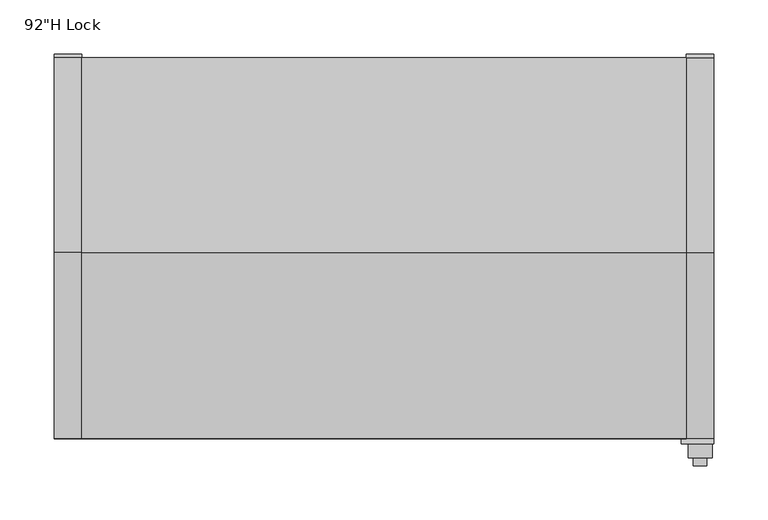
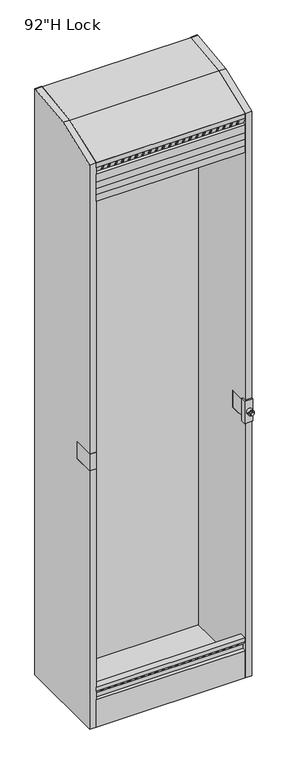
"""IFC4 building model written with IfcOpenShell, lengths in millimetres: furniture geometry."""

from ifc_helpers import new_model, si_unit, point, frame, frame_2d, origin, origin_with_axes, place, context, project, spatial, polyline, circle_curve, trimmed, segment, composite_curve, outline, extrude, faceted_brep, source, transform, mapped, element, save


def furniture_0b1650b5(model_context):
    return source(origin(), model_context, "Body", "SolidModel", [
        extrude(outline(polyline([(298.1376928, -25.4), (298.1376928, -50.8), (-260.6622951, -50.8), (-260.6622951, -25.4), (298.1376928, -25.4)])), frame((0.0, 0.0, 25.4), z_axis=(0.0, 0.0, 1.0), x_axis=(1.0, 0.0, 0.0)), (0.0, 0.0, 1.0), 2082.8),
        extrude(outline(polyline([(-183.6811645, 2305.1621655), (-3.1496374, 2327.275), (-3.1496374, 2324.0762712), (-182.9077346, 2302.058172), (-352.425, 2236.9865905), (-355.6000156, 2239.1687016), (-183.6811645, 2305.1621655)])), frame((-260.6622951, 0.0, 0.0), z_axis=(1.0, 0.0, 0.0), x_axis=(0.0, 1.0, 0.0)), (0.0, 0.0, 1.0), 558.8),
        extrude(outline(polyline([(-286.0622951, -355.6), (-286.0622951, -274.6375061), (-260.6622951, -274.6375061), (-260.6622951, -355.6), (-286.0622951, -355.6)])), frame((0.0, 0.0, 1025.5249758), z_axis=(0.0, 0.0, 1.0), x_axis=(1.0, 0.0, 0.0)), (0.0, 0.0, 1.0), 65.8812984),
        faceted_brep([(-260.6622951, -355.6, 2239.1686908), (-260.6622951, -352.425, 2236.9865905), (-260.6622951, -352.425, 2220.7977875), (-260.6622951, -340.8042724, 2194.8747503), (-260.6622951, -352.425, 2192.1930455), (-260.6622951, -352.425, 2162.9687016), (-260.6622951, -352.425, 2137.5687984), (-260.6622951, -352.425, 2112.16875), (-260.6622951, -352.425, 2086.7687016), (-260.6622951, -355.6, 2086.7687016), (-260.6622951, -355.6, 2112.16875), (-260.6622951, -355.6, 2137.5687984), (-260.6622951, -355.6, 2162.9687016), (-260.6622951, -355.6, 2194.7187984), (-260.6622951, -345.2812439, 2197.1000484), (-260.6622951, -355.6, 2220.1187016), (298.1377049, -355.6, 2239.1686908), (298.1377049, -355.6, 2220.1187016), (298.1377049, -345.2812439, 2197.1000484), (298.1377049, -355.6, 2194.7187984), (298.1377049, -355.6, 2162.9687016), (298.1377049, -355.6, 2137.5687984), (298.1377049, -355.6, 2112.16875), (298.1377049, -355.6, 2086.7687016), (298.1377049, -352.425, 2086.7687016), (298.1377049, -352.425, 2112.16875), (298.1377049, -352.425, 2137.5687984), (298.1377049, -352.425, 2162.9687016), (298.1377049, -352.425, 2192.1930455), (298.1377049, -340.8042724, 2194.8747503), (298.1377049, -352.425, 2220.7977875), (298.1377049, -352.425, 2236.9865905), (-238.4373192, -344.5601715, 2203.2532541), (-232.0873207, -344.5601715, 2203.2532541), (-232.0873207, -350.9557807, 2217.5203139), (-238.4373192, -350.9557807, 2217.5203139), (-213.0373207, -344.5601715, 2203.2532541), (-206.6873222, -344.5601715, 2203.2532541), (-206.6873222, -350.9557807, 2217.5203139), (-213.0373207, -350.9557807, 2217.5203139), (-187.6373222, -344.5601715, 2203.2532541), (-181.2873192, -344.5601715, 2203.2532541), (-181.2873192, -350.9557807, 2217.5203139), (-187.6373222, -350.9557807, 2217.5203139), (-162.2373192, -344.5601715, 2203.2532541), (-155.8873161, -344.5601715, 2203.2532541), (-155.8873161, -350.9557807, 2217.5203139), (-162.2373192, -350.9557807, 2217.5203139), (-136.8373161, -344.5601715, 2203.2532541), (-130.4873131, -344.5601715, 2203.2532541), (-130.4873131, -350.9557807, 2217.5203139), (-136.8373161, -350.9557807, 2217.5203139), (-111.4373131, -344.5601715, 2203.2532541), (-105.0873192, -344.5601715, 2203.2532541), (-105.0873192, -350.9557807, 2217.5203139), (-111.4373131, -350.9557807, 2217.5203139), (-86.0373192, -344.5601715, 2203.2532541), (-79.6873252, -344.5601715, 2203.2532541), (-79.6873252, -350.9557807, 2217.5203139), (-86.0373192, -350.9557807, 2217.5203139), (-60.6373252, -344.5601715, 2203.2532541), (-54.2873131, -344.5601715, 2203.2532541), (-54.2873131, -350.9557807, 2217.5203139), (-60.6373252, -350.9557807, 2217.5203139), (-35.2373131, -344.5601715, 2203.2532541), (-28.8873192, -344.5601715, 2203.2532541), (-28.8873192, -350.9557807, 2217.5203139), (-35.2373131, -350.9557807, 2217.5203139), (-9.8373192, -344.5601715, 2203.2532541), (-3.4873252, -344.5601715, 2203.2532541), (-3.4873252, -350.9557807, 2217.5203139), (-9.8373192, -350.9557807, 2217.5203139), (15.5626748, -344.5601715, 2203.2532541), (21.9126687, -344.5601715, 2203.2532541), (21.9126687, -350.9557807, 2217.5203139), (15.5626748, -350.9557807, 2217.5203139), (40.9626687, -344.5601715, 2203.2532541), (47.3126808, -344.5601715, 2203.2532541), (47.3126808, -350.9557807, 2217.5203139), (40.9626687, -350.9557807, 2217.5203139), (66.3626808, -344.5601715, 2203.2532541), (72.712693, -344.5601715, 2203.2532541), (72.712693, -350.9557807, 2217.5203139), (66.3626808, -350.9557807, 2217.5203139), (91.762693, -344.5601715, 2203.2532541), (98.1126687, -344.5601715, 2203.2532541), (98.1126687, -350.9557807, 2217.5203139), (91.762693, -350.9557807, 2217.5203139), (117.1626687, -344.5601715, 2203.2532541), (123.5126808, -344.5601715, 2203.2532541), (123.5126808, -350.9557807, 2217.5203139), (117.1626687, -350.9557807, 2217.5203139), (142.5626808, -344.5601715, 2203.2532541), (148.912693, -344.5601715, 2203.2532541), (148.912693, -350.9557807, 2217.5203139), (142.5626808, -350.9557807, 2217.5203139), (167.962693, -344.5601715, 2203.2532541), (174.3126687, -344.5601715, 2203.2532541), (174.3126687, -350.9557807, 2217.5203139), (167.962693, -350.9557807, 2217.5203139), (193.3626687, -344.5601715, 2203.2532541), (199.7126808, -344.5601715, 2203.2532541), (199.7126808, -350.9557807, 2217.5203139), (193.3626687, -350.9557807, 2217.5203139), (218.7626808, -344.5601715, 2203.2532541), (225.112693, -344.5601715, 2203.2532541), (225.112693, -350.9557807, 2217.5203139), (218.7626808, -350.9557807, 2217.5203139), (244.162693, -344.5601715, 2203.2532541), (250.5126687, -344.5601715, 2203.2532541), (250.5126687, -350.9557807, 2217.5203139), (244.162693, -350.9557807, 2217.5203139), (269.5626687, -344.5601715, 2203.2532541), (275.9126808, -344.5601715, 2203.2532541), (275.9126808, -350.9557807, 2217.5203139), (269.5626687, -350.9557807, 2217.5203139), (-232.0873207, -347.4573862, 2201.9544964), (-238.4373192, -347.4573862, 2201.9544964), (-238.4373192, -353.8529955, 2216.2215563), (-232.0873207, -353.8529955, 2216.2215563), (-206.6873222, -347.4573862, 2201.9544964), (-213.0373207, -347.4573862, 2201.9544964), (-213.0373207, -353.8529955, 2216.2215563), (-206.6873222, -353.8529955, 2216.2215563), (-181.2873192, -347.4573862, 2201.9544964), (-187.6373222, -347.4573862, 2201.9544964), (-187.6373222, -353.8529955, 2216.2215563), (-181.2873192, -353.8529955, 2216.2215563), (-155.8873161, -347.4573862, 2201.9544964), (-162.2373192, -347.4573862, 2201.9544964), (-162.2373192, -353.8529955, 2216.2215563), (-155.8873161, -353.8529955, 2216.2215563), (-130.4873131, -347.4573862, 2201.9544964), (-136.8373161, -347.4573862, 2201.9544964), (-136.8373161, -353.8529955, 2216.2215563), (-130.4873131, -353.8529955, 2216.2215563), (-105.0873192, -347.4573862, 2201.9544964), (-111.4373131, -347.4573862, 2201.9544964), (-111.4373131, -353.8529955, 2216.2215563), (-105.0873192, -353.8529955, 2216.2215563), (-79.6873252, -347.4573862, 2201.9544964), (-86.0373192, -347.4573862, 2201.9544964), (-86.0373192, -353.8529955, 2216.2215563), (-79.6873252, -353.8529955, 2216.2215563), (-54.2873131, -347.4573862, 2201.9544964), (-60.6373252, -347.4573862, 2201.9544964), (-60.6373252, -353.8529955, 2216.2215563), (-54.2873131, -353.8529955, 2216.2215563), (-28.8873192, -347.4573862, 2201.9544964), (-35.2373131, -347.4573862, 2201.9544964), (-35.2373131, -353.8529955, 2216.2215563), (-28.8873192, -353.8529955, 2216.2215563), (-3.4873252, -347.4573862, 2201.9544964), (-9.8373192, -347.4573862, 2201.9544964), (-9.8373192, -353.8529955, 2216.2215563), (-3.4873252, -353.8529955, 2216.2215563), (21.9126687, -347.4573862, 2201.9544964), (15.5626748, -347.4573862, 2201.9544964), (15.5626748, -353.8529955, 2216.2215563), (21.9126687, -353.8529955, 2216.2215563), (47.3126808, -347.4573862, 2201.9544964), (40.9626687, -347.4573862, 2201.9544964), (40.9626687, -353.8529955, 2216.2215563), (47.3126808, -353.8529955, 2216.2215563), (72.712693, -347.4573862, 2201.9544964), (66.3626808, -347.4573862, 2201.9544964), (66.3626808, -353.8529955, 2216.2215563), (72.712693, -353.8529955, 2216.2215563), (98.1126687, -347.4573862, 2201.9544964), (91.762693, -347.4573862, 2201.9544964), (91.762693, -353.8529955, 2216.2215563), (98.1126687, -353.8529955, 2216.2215563), (123.5126808, -347.4573862, 2201.9544964), (117.1626687, -347.4573862, 2201.9544964), (117.1626687, -353.8529955, 2216.2215563), (123.5126808, -353.8529955, 2216.2215563), (148.912693, -347.4573862, 2201.9544964), (142.5626808, -347.4573862, 2201.9544964), (142.5626808, -353.8529955, 2216.2215563), (148.912693, -353.8529955, 2216.2215563), (174.3126687, -347.4573862, 2201.9544964), (167.962693, -347.4573862, 2201.9544964), (167.962693, -353.8529955, 2216.2215563), (174.3126687, -353.8529955, 2216.2215563), (199.7126808, -347.4573862, 2201.9544964), (193.3626687, -347.4573862, 2201.9544964), (193.3626687, -353.8529955, 2216.2215563), (199.7126808, -353.8529955, 2216.2215563), (225.112693, -347.4573862, 2201.9544964), (218.7626808, -347.4573862, 2201.9544964), (218.7626808, -353.8529955, 2216.2215563), (225.112693, -353.8529955, 2216.2215563), (250.5126687, -347.4573862, 2201.9544964), (244.162693, -347.4573862, 2201.9544964), (244.162693, -353.8529955, 2216.2215563), (250.5126687, -353.8529955, 2216.2215563), (275.9126808, -347.4573862, 2201.9544964), (269.5626687, -347.4573862, 2201.9544964), (269.5626687, -353.8529955, 2216.2215563), (275.9126808, -353.8529955, 2216.2215563)], [[[0, 1, 2, 3, 4, 5, 6, 7, 8, 9, 10, 11, 12, 13, 14, 15]], [[16, 17, 18, 19, 20, 21, 22, 23, 24, 25, 26, 27, 28, 29, 30, 31]], [[1, 0, 16, 31]], [[2, 1, 31, 30]], [[3, 2, 30, 29], [32, 33, 34, 35], [36, 37, 38, 39], [40, 41, 42, 43], [44, 45, 46, 47], [48, 49, 50, 51], [52, 53, 54, 55], [56, 57, 58, 59], [60, 61, 62, 63], [64, 65, 66, 67], [68, 69, 70, 71], [72, 73, 74, 75], [76, 77, 78, 79], [80, 81, 82, 83], [84, 85, 86, 87], [88, 89, 90, 91], [92, 93, 94, 95], [96, 97, 98, 99], [100, 101, 102, 103], [104, 105, 106, 107], [108, 109, 110, 111], [112, 113, 114, 115]], [[4, 3, 29, 28]], [[5, 4, 28, 27]], [[6, 5, 27, 26]], [[7, 6, 26, 25]], [[8, 7, 25, 24]], [[9, 8, 24, 23]], [[10, 9, 23, 22]], [[11, 10, 22, 21]], [[12, 11, 21, 20]], [[13, 12, 20, 19]], [[14, 13, 19, 18]], [[15, 14, 18, 17], [116, 117, 118, 119], [120, 121, 122, 123], [124, 125, 126, 127], [128, 129, 130, 131], [132, 133, 134, 135], [136, 137, 138, 139], [140, 141, 142, 143], [144, 145, 146, 147], [148, 149, 150, 151], [152, 153, 154, 155], [156, 157, 158, 159], [160, 161, 162, 163], [164, 165, 166, 167], [168, 169, 170, 171], [172, 173, 174, 175], [176, 177, 178, 179], [180, 181, 182, 183], [184, 185, 186, 187], [188, 189, 190, 191], [192, 193, 194, 195], [196, 197, 198, 199]], [[0, 15, 17, 16]], [[116, 33, 32, 117]], [[33, 116, 119, 34]], [[34, 119, 118, 35]], [[117, 32, 35, 118]], [[120, 37, 36, 121]], [[37, 120, 123, 38]], [[38, 123, 122, 39]], [[121, 36, 39, 122]], [[124, 41, 40, 125]], [[41, 124, 127, 42]], [[42, 127, 126, 43]], [[125, 40, 43, 126]], [[128, 45, 44, 129]], [[45, 128, 131, 46]], [[46, 131, 130, 47]], [[129, 44, 47, 130]], [[132, 49, 48, 133]], [[49, 132, 135, 50]], [[50, 135, 134, 51]], [[133, 48, 51, 134]], [[136, 53, 52, 137]], [[53, 136, 139, 54]], [[54, 139, 138, 55]], [[137, 52, 55, 138]], [[140, 57, 56, 141]], [[57, 140, 143, 58]], [[58, 143, 142, 59]], [[141, 56, 59, 142]], [[144, 61, 60, 145]], [[61, 144, 147, 62]], [[62, 147, 146, 63]], [[145, 60, 63, 146]], [[148, 65, 64, 149]], [[65, 148, 151, 66]], [[66, 151, 150, 67]], [[149, 64, 67, 150]], [[152, 69, 68, 153]], [[69, 152, 155, 70]], [[70, 155, 154, 71]], [[153, 68, 71, 154]], [[156, 73, 72, 157]], [[73, 156, 159, 74]], [[74, 159, 158, 75]], [[157, 72, 75, 158]], [[160, 77, 76, 161]], [[77, 160, 163, 78]], [[78, 163, 162, 79]], [[161, 76, 79, 162]], [[164, 81, 80, 165]], [[81, 164, 167, 82]], [[82, 167, 166, 83]], [[165, 80, 83, 166]], [[168, 85, 84, 169]], [[85, 168, 171, 86]], [[86, 171, 170, 87]], [[169, 84, 87, 170]], [[172, 89, 88, 173]], [[89, 172, 175, 90]], [[90, 175, 174, 91]], [[173, 88, 91, 174]], [[176, 93, 92, 177]], [[93, 176, 179, 94]], [[94, 179, 178, 95]], [[177, 92, 95, 178]], [[180, 97, 96, 181]], [[97, 180, 183, 98]], [[98, 183, 182, 99]], [[181, 96, 99, 182]], [[184, 101, 100, 185]], [[101, 184, 187, 102]], [[102, 187, 186, 103]], [[185, 100, 103, 186]], [[188, 105, 104, 189]], [[105, 188, 191, 106]], [[106, 191, 190, 107]], [[189, 104, 107, 190]], [[192, 109, 108, 193]], [[109, 192, 195, 110]], [[110, 195, 194, 111]], [[193, 108, 111, 194]], [[196, 113, 112, 197]], [[113, 196, 199, 114]], [[114, 199, 198, 115]], [[197, 112, 115, 198]]]),
        faceted_brep([(-260.6622951, -330.1999879, 0.0), (-260.6622951, -355.6, 0.0), (-260.6622951, -355.6, 107.949997), (-260.6622951, -341.3125, 107.949997), (-260.6622951, -341.3125, 124.618747), (-260.6622951, -355.6, 142.081253), (-260.6622951, -355.6, 158.7499939), (-260.6622951, -330.1999879, 158.7499939), (298.1377049, -330.1999879, 0.0), (298.1377049, -330.1999879, 158.7499939), (298.1377049, -355.6, 158.7499939), (298.1377049, -355.6, 142.081253), (298.1377049, -341.3125, 124.618747), (298.1377049, -341.3125, 107.949997), (298.1377049, -355.6, 107.949997), (298.1377049, -355.6, 0.0), (-238.4373192, -352.3110415, 138.0614135), (-232.0873207, -352.3110415, 138.0614135), (-232.0873207, -345.2380252, 129.4166127), (-238.4373192, -345.2380252, 129.4166127), (-213.0373207, -352.3110415, 138.0614135), (-206.6873222, -352.3110415, 138.0614135), (-206.6873222, -345.2380252, 129.4166127), (-213.0373207, -345.2380252, 129.4166127), (-187.6373222, -352.3110415, 138.0614135), (-181.2873192, -352.3110415, 138.0614135), (-181.2873192, -345.2380252, 129.4166127), (-187.6373222, -345.2380252, 129.4166127), (-162.2373192, -352.3110415, 138.0614135), (-155.8873161, -352.3110415, 138.0614135), (-155.8873161, -345.2380252, 129.4166127), (-162.2373192, -345.2380252, 129.4166127), (-136.8373161, -352.3110415, 138.0614135), (-130.4873131, -352.3110415, 138.0614135), (-130.4873131, -345.2380252, 129.4166127), (-136.8373161, -345.2380252, 129.4166127), (-111.4373131, -352.3110415, 138.0614135), (-105.0873192, -352.3110415, 138.0614135), (-105.0873192, -345.2380252, 129.4166127), (-111.4373131, -345.2380252, 129.4166127), (-86.0373192, -352.3110415, 138.0614135), (-79.6873252, -352.3110415, 138.0614135), (-79.6873252, -345.2380252, 129.4166127), (-86.0373192, -345.2380252, 129.4166127), (-60.6373252, -352.3110415, 138.0614135), (-54.2873131, -352.3110415, 138.0614135), (-54.2873131, -345.2380252, 129.4166127), (-60.6373252, -345.2380252, 129.4166127), (-35.2373131, -352.3110415, 138.0614135), (-28.8873192, -352.3110415, 138.0614135), (-28.8873192, -345.2380252, 129.4166127), (-35.2373131, -345.2380252, 129.4166127), (-9.8373192, -352.3110415, 138.0614135), (-3.4873252, -352.3110415, 138.0614135), (-3.4873252, -345.2380252, 129.4166127), (-9.8373192, -345.2380252, 129.4166127), (15.5626748, -352.3110415, 138.0614135), (21.9126687, -352.3110415, 138.0614135), (21.9126687, -345.2380252, 129.4166127), (15.5626748, -345.2380252, 129.4166127), (40.9626687, -352.3110415, 138.0614135), (47.3126808, -352.3110415, 138.0614135), (47.3126808, -345.2380252, 129.4166127), (40.9626687, -345.2380252, 129.4166127), (66.3626808, -352.3110415, 138.0614135), (72.712693, -352.3110415, 138.0614135), (72.712693, -345.2380252, 129.4166127), (66.3626808, -345.2380252, 129.4166127), (91.762693, -352.3110415, 138.0614135), (98.1126687, -352.3110415, 138.0614135), (98.1126687, -345.2380252, 129.4166127), (91.762693, -345.2380252, 129.4166127), (117.1626687, -352.3110415, 138.0614135), (123.5126808, -352.3110415, 138.0614135), (123.5126808, -345.2380252, 129.4166127), (117.1626687, -345.2380252, 129.4166127), (142.5626808, -352.3110415, 138.0614135), (148.912693, -352.3110415, 138.0614135), (148.912693, -345.2380252, 129.4166127), (142.5626808, -345.2380252, 129.4166127), (167.962693, -352.3110415, 138.0614135), (174.3126687, -352.3110415, 138.0614135), (174.3126687, -345.2380252, 129.4166127), (167.962693, -345.2380252, 129.4166127), (193.3626687, -352.3110415, 138.0614135), (199.7126808, -352.3110415, 138.0614135), (199.7126808, -345.2380252, 129.4166127), (193.3626687, -345.2380252, 129.4166127), (218.7626808, -352.3110415, 138.0614135), (225.112693, -352.3110415, 138.0614135), (225.112693, -345.2380252, 129.4166127), (218.7626808, -345.2380252, 129.4166127), (244.162693, -352.3110415, 138.0614135), (250.5126687, -352.3110415, 138.0614135), (250.5126687, -345.2380252, 129.4166127), (244.162693, -345.2380252, 129.4166127), (269.5626687, -352.3110415, 138.0614135), (275.9126808, -352.3110415, 138.0614135), (275.9126808, -345.2380252, 129.4166127), (269.5626687, -345.2380252, 129.4166127), (-232.0873207, -347.396412, 142.0824726), (-238.4373192, -347.396412, 142.0824726), (-238.4373192, -340.3233956, 133.4376719), (-232.0873207, -340.3233956, 133.4376719), (-206.6873222, -347.396412, 142.0824726), (-213.0373207, -347.396412, 142.0824726), (-213.0373207, -340.3233956, 133.4376719), (-206.6873222, -340.3233956, 133.4376719), (-181.2873192, -347.396412, 142.0824726), (-187.6373222, -347.396412, 142.0824726), (-187.6373222, -340.3233956, 133.4376719), (-181.2873192, -340.3233956, 133.4376719), (-155.8873161, -347.396412, 142.0824726), (-162.2373192, -347.396412, 142.0824726), (-162.2373192, -340.3233956, 133.4376719), (-155.8873161, -340.3233956, 133.4376719), (-130.4873131, -347.396412, 142.0824726), (-136.8373161, -347.396412, 142.0824726), (-136.8373161, -340.3233956, 133.4376719), (-130.4873131, -340.3233956, 133.4376719), (-105.0873192, -347.396412, 142.0824726), (-111.4373131, -347.396412, 142.0824726), (-111.4373131, -340.3233956, 133.4376719), (-105.0873192, -340.3233956, 133.4376719), (-79.6873252, -347.396412, 142.0824726), (-86.0373192, -347.396412, 142.0824726), (-86.0373192, -340.3233956, 133.4376719), (-79.6873252, -340.3233956, 133.4376719), (-54.2873131, -347.396412, 142.0824726), (-60.6373252, -347.396412, 142.0824726), (-60.6373252, -340.3233956, 133.4376719), (-54.2873131, -340.3233956, 133.4376719), (-28.8873192, -347.396412, 142.0824726), (-35.2373131, -347.396412, 142.0824726), (-35.2373131, -340.3233956, 133.4376719), (-28.8873192, -340.3233956, 133.4376719), (-3.4873252, -347.396412, 142.0824726), (-9.8373192, -347.396412, 142.0824726), (-9.8373192, -340.3233956, 133.4376719), (-3.4873252, -340.3233956, 133.4376719), (21.9126687, -347.396412, 142.0824726), (15.5626748, -347.396412, 142.0824726), (15.5626748, -340.3233956, 133.4376719), (21.9126687, -340.3233956, 133.4376719), (47.3126808, -347.396412, 142.0824726), (40.9626687, -347.396412, 142.0824726), (40.9626687, -340.3233956, 133.4376719), (47.3126808, -340.3233956, 133.4376719), (72.712693, -347.396412, 142.0824726), (66.3626808, -347.396412, 142.0824726), (66.3626808, -340.3233956, 133.4376719), (72.712693, -340.3233956, 133.4376719), (98.1126687, -347.396412, 142.0824726), (91.762693, -347.396412, 142.0824726), (91.762693, -340.3233956, 133.4376719), (98.1126687, -340.3233956, 133.4376719), (123.5126808, -347.396412, 142.0824726), (117.1626687, -347.396412, 142.0824726), (117.1626687, -340.3233956, 133.4376719), (123.5126808, -340.3233956, 133.4376719), (148.912693, -347.396412, 142.0824726), (142.5626808, -347.396412, 142.0824726), (142.5626808, -340.3233956, 133.4376719), (148.912693, -340.3233956, 133.4376719), (174.3126687, -347.396412, 142.0824726), (167.962693, -347.396412, 142.0824726), (167.962693, -340.3233956, 133.4376719), (174.3126687, -340.3233956, 133.4376719), (199.7126808, -347.396412, 142.0824726), (193.3626687, -347.396412, 142.0824726), (193.3626687, -340.3233956, 133.4376719), (199.7126808, -340.3233956, 133.4376719), (225.112693, -347.396412, 142.0824726), (218.7626808, -347.396412, 142.0824726), (218.7626808, -340.3233956, 133.4376719), (225.112693, -340.3233956, 133.4376719), (250.5126687, -347.396412, 142.0824726), (244.162693, -347.396412, 142.0824726), (244.162693, -340.3233956, 133.4376719), (250.5126687, -340.3233956, 133.4376719), (275.9126808, -347.396412, 142.0824726), (269.5626687, -347.396412, 142.0824726), (269.5626687, -340.3233956, 133.4376719), (275.9126808, -340.3233956, 133.4376719)], [[[0, 1, 2, 3, 4, 5, 6, 7]], [[8, 9, 10, 11, 12, 13, 14, 15]], [[1, 0, 8, 15]], [[2, 1, 15, 14]], [[3, 2, 14, 13]], [[4, 3, 13, 12]], [[5, 4, 12, 11], [16, 17, 18, 19], [20, 21, 22, 23], [24, 25, 26, 27], [28, 29, 30, 31], [32, 33, 34, 35], [36, 37, 38, 39], [40, 41, 42, 43], [44, 45, 46, 47], [48, 49, 50, 51], [52, 53, 54, 55], [56, 57, 58, 59], [60, 61, 62, 63], [64, 65, 66, 67], [68, 69, 70, 71], [72, 73, 74, 75], [76, 77, 78, 79], [80, 81, 82, 83], [84, 85, 86, 87], [88, 89, 90, 91], [92, 93, 94, 95], [96, 97, 98, 99]], [[6, 5, 11, 10]], [[7, 6, 10, 9]], [[0, 7, 9, 8]], [[100, 101, 102, 103]], [[104, 105, 106, 107]], [[108, 109, 110, 111]], [[112, 113, 114, 115]], [[116, 117, 118, 119]], [[120, 121, 122, 123]], [[124, 125, 126, 127]], [[128, 129, 130, 131]], [[132, 133, 134, 135]], [[136, 137, 138, 139]], [[140, 141, 142, 143]], [[144, 145, 146, 147]], [[148, 149, 150, 151]], [[152, 153, 154, 155]], [[156, 157, 158, 159]], [[160, 161, 162, 163]], [[164, 165, 166, 167]], [[168, 169, 170, 171]], [[172, 173, 174, 175]], [[176, 177, 178, 179]], [[180, 181, 182, 183]], [[101, 100, 17, 16]], [[102, 101, 16, 19]], [[103, 102, 19, 18]], [[100, 103, 18, 17]], [[105, 104, 21, 20]], [[106, 105, 20, 23]], [[107, 106, 23, 22]], [[104, 107, 22, 21]], [[109, 108, 25, 24]], [[110, 109, 24, 27]], [[111, 110, 27, 26]], [[108, 111, 26, 25]], [[113, 112, 29, 28]], [[114, 113, 28, 31]], [[115, 114, 31, 30]], [[112, 115, 30, 29]], [[117, 116, 33, 32]], [[118, 117, 32, 35]], [[119, 118, 35, 34]], [[116, 119, 34, 33]], [[121, 120, 37, 36]], [[122, 121, 36, 39]], [[123, 122, 39, 38]], [[120, 123, 38, 37]], [[125, 124, 41, 40]], [[126, 125, 40, 43]], [[127, 126, 43, 42]], [[124, 127, 42, 41]], [[129, 128, 45, 44]], [[130, 129, 44, 47]], [[131, 130, 47, 46]], [[128, 131, 46, 45]], [[133, 132, 49, 48]], [[134, 133, 48, 51]], [[135, 134, 51, 50]], [[132, 135, 50, 49]], [[137, 136, 53, 52]], [[138, 137, 52, 55]], [[139, 138, 55, 54]], [[136, 139, 54, 53]], [[141, 140, 57, 56]], [[142, 141, 56, 59]], [[143, 142, 59, 58]], [[140, 143, 58, 57]], [[145, 144, 61, 60]], [[146, 145, 60, 63]], [[147, 146, 63, 62]], [[144, 147, 62, 61]], [[149, 148, 65, 64]], [[150, 149, 64, 67]], [[151, 150, 67, 66]], [[148, 151, 66, 65]], [[153, 152, 69, 68]], [[154, 153, 68, 71]], [[155, 154, 71, 70]], [[152, 155, 70, 69]], [[157, 156, 73, 72]], [[158, 157, 72, 75]], [[159, 158, 75, 74]], [[156, 159, 74, 73]], [[161, 160, 77, 76]], [[162, 161, 76, 79]], [[163, 162, 79, 78]], [[160, 163, 78, 77]], [[165, 164, 81, 80]], [[166, 165, 80, 83]], [[167, 166, 83, 82]], [[164, 167, 82, 81]], [[169, 168, 85, 84]], [[170, 169, 84, 87]], [[171, 170, 87, 86]], [[168, 171, 86, 85]], [[173, 172, 89, 88]], [[174, 173, 88, 91]], [[175, 174, 91, 90]], [[172, 175, 90, 89]], [[177, 176, 93, 92]], [[178, 177, 92, 95]], [[179, 178, 95, 94]], [[176, 179, 94, 93]], [[181, 180, 97, 96]], [[182, 181, 96, 99]], [[183, 182, 99, 98]], [[180, 183, 98, 97]]]),
        extrude(outline(polyline([(-260.6622951, -330.1999879), (-260.6622951, -3.1496374), (298.1377049, -3.1496374), (298.1377049, -330.1999879), (-260.6622951, -330.1999879)])), origin_with_axes(), (0.0, 0.0, 1.0), 25.4),
        extrude(outline(polyline([(0.0, 0.0), (-355.6, 0.0), (-355.6, 1025.5249758), (-274.6375061, 1025.5249758), (-274.6375061, 1091.4062742), (-355.6, 1091.4062742), (-355.6, 2239.1687076), (-183.6811645, 2305.1621655), (-3.1496374, 2327.275), (0.0, 2327.275), (0.0, 0.0)])), frame((298.1376928, 0.0, 0.0), z_axis=(1.0, 0.0, 0.0), x_axis=(0.0, 1.0, 0.0)), (0.0, 0.0, 1.0), 25.4000121),
        extrude(outline(polyline([(0.0, 0.0), (-355.6, 0.0), (-355.6, 1025.5249758), (-274.6375061, 1025.5249758), (-274.6375061, 1091.4062742), (-355.6, 1091.4062742), (-355.6, 2239.1687076), (-183.6811645, 2305.1621655), (-3.1496374, 2327.275), (0.0, 2327.275), (0.0, 0.0)])), frame((-286.0622951, 0.0, 0.0), z_axis=(1.0, 0.0, 0.0), x_axis=(0.0, 1.0, 0.0)), (0.0, 0.0, 1.0), 25.3999758),
        extrude(outline(polyline([(323.5377049, -274.6375061), (323.5377049, -355.6), (298.1377049, -355.6), (298.1377049, -274.6375061), (323.5377049, -274.6375061)])), frame((0.0, 0.0, 1025.5249758), z_axis=(0.0, 0.0, 1.0), x_axis=(1.0, 0.0, 0.0)), (0.0, 0.0, 1.0), 65.8812984),
        extrude(outline(composite_curve([segment(trimmed(circle_curve(frame_2d((1057.275, 310.8376989)), 11.1125), [point((1057.275, 299.7251989))], [point((1057.275, 321.9501989))], False, "CARTESIAN"), True, "CONTINUOUS"), segment(trimmed(circle_curve(frame_2d((1057.275, 310.8376989)), 11.1125), [point((1057.275, 321.9501989))], [point((1057.275, 299.7251989))], False, "CARTESIAN"), True, "CONTINUOUS")], self_intersect=False)), frame((0.0, -373.0625, 0.0), z_axis=(0.0, 1.0, 0.0), x_axis=(0.0, 0.0, 1.0)), (0.0, 0.0, 1.0), 12.7),
        extrude(outline(polyline([(293.3751928, -360.3625), (293.3751928, -342.8999939), (298.1377049, -342.8999939), (298.1377049, -355.6), (323.5377049, -355.6), (323.5377049, -360.3625), (293.3751928, -360.3625)])), frame((0.0, 0.0, 1013.6187258), z_axis=(0.0, 0.0, 1.0), x_axis=(1.0, 0.0, 0.0)), (0.0, 0.0, 1.0), 88.9000242),
        extrude(outline(composite_curve([segment(trimmed(circle_curve(frame_2d((1057.275, 310.7920101)), 6.35), [point((1057.275, 304.4420101))], [point((1057.275, 317.1420101))], False, "CARTESIAN"), True, "CONTINUOUS"), segment(trimmed(circle_curve(frame_2d((1057.275, 310.7920101)), 6.35), [point((1057.275, 317.1420101))], [point((1057.275, 304.4420101))], False, "CARTESIAN"), True, "CONTINUOUS")], self_intersect=False)), frame((0.0, -380.4569889, 0.0), z_axis=(0.0, 1.0, 0.0), x_axis=(0.0, 0.0, 1.0)), (0.0, 0.0, 1.0), 7.3944889),
    ])


if __name__ == "__main__":
    model = new_model("IFC4")
    model_context = context("Model", 3, world=origin())
    ifc_project = project(units=[si_unit("LENGTHUNIT", "METRE", prefix="MILLI")], contexts=[model_context])
    site = spatial("IfcSite", under=ifc_project)
    building = spatial("IfcBuilding", under=site)
    placement = place(None, origin())
    furniture_shape = furniture_0b1650b5(model_context)
    element("IfcFurniture", 1, ObjectType="HermanMiller_CoStruc_CV300_EndoscopyCatheterCabinet : 92\"H Lock", at=placement, inside=building, context=model_context, shape_type="MappedRepresentation", body=[
        mapped(furniture_shape, transform((0.0, 0.0, 0.0), x_axis=(1.0, 0.0, 0.0), y_axis=(0.0, 1.0, 0.0), z_axis=(0.0, 0.0, 1.0))),
    ])
    save(model, "model.ifc")
